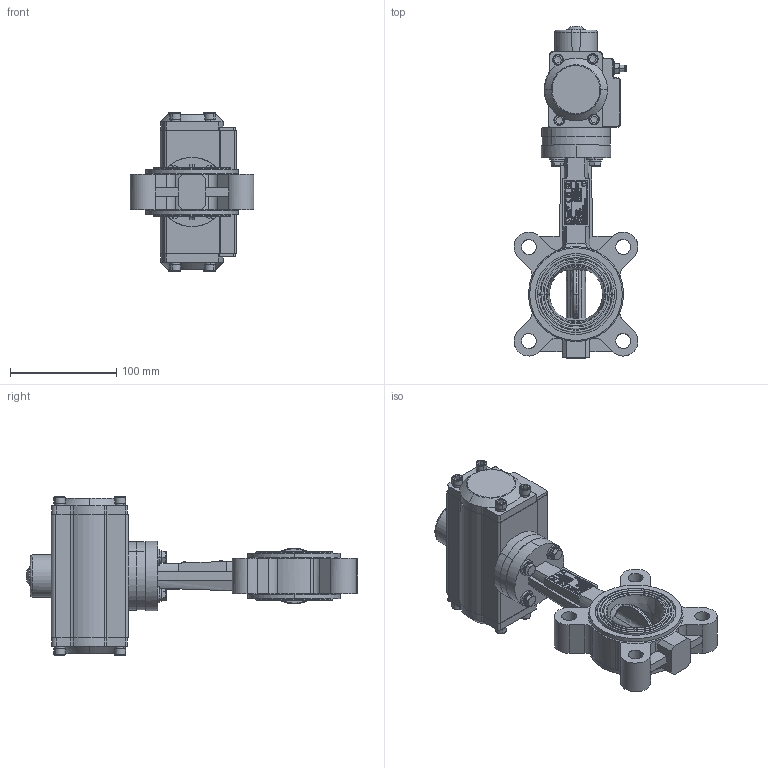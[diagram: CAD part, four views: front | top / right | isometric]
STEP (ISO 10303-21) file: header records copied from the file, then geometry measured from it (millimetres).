
FILE_DESCRIPTION (( 'STEP AP214' ), '1' );
FILE_NAME ('VP464X-N03XX0050.step', '2022-06-27T15:54:22', ( '' ), ( '' ), 'SwSTEP 2.0', 'SolidWorks 2020', '' );
FILE_SCHEMA (( 'AUTOMOTIVE_DESIGN' ));
Length unit declared in the file: millimetre
Products named in the file (1): VP464X-N03XX0050
Bounding box: 116.39 x 311.82 x 148.56 mm (x, y, z)
Surface area: 151007.8 mm2 (no closed solid volume)
Topology: 0 solids, 96 shells, 834 faces, 4683 edges, 3915 vertices
Faces by surface type: plane 413, cylinder 236, bspline 109, cone 72, torus 4
Entity records: 74900 total; most frequent: CARTESIAN_POINT 32607, ORIENTED_EDGE 6247, DIRECTION 5552, EDGE_CURVE 4675, VERTEX_POINT 3915, VECTOR 2572, LINE 2572, AXIS2_PLACEMENT_3D 1490
